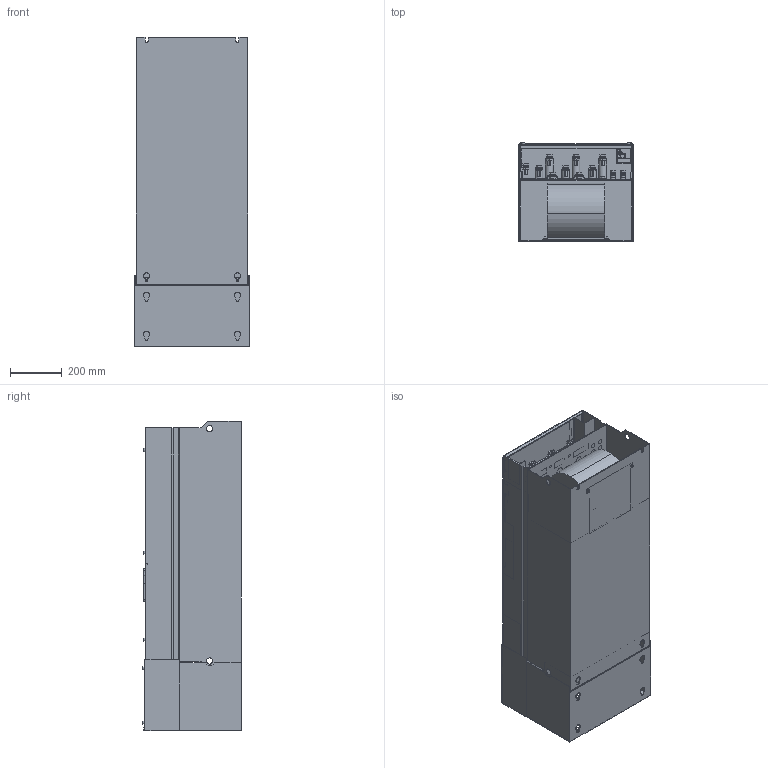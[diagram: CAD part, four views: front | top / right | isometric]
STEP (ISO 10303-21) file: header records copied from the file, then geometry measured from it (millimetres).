
FILE_DESCRIPTION((''),'2;1');
FILE_NAME('VFAS3_SA7_ASM','2016-08-30T',('SESA237464'),('Schneider-Electric'),'PRO/ENGINEER BY PARAMETRIC TECHNOLOGY CORPORATION, 2012420','PRO/ENGINEER BY PARAMETRIC TECHNOLOGY CORPORATION, 2012420','');
FILE_SCHEMA(('CONFIG_CONTROL_DESIGN'));
Products named in the file (23): PRT0001_1_1_1; PRT0004_1_1_1; PRT0101_1_1; PRT0005_1_1_1; PRT0102_1_1; PRT0103_1_1; PRT0007_1_1_1; PRT0008_1_1_1; PRT0104_1_1; PRT0105_1_1; PRT0009_1_1_1; PRT0106_1_1; PRT0010_1_1_1; PRT0012_1_1_1; PRT0013_1_1_1; PRT0109_1_1; PRT0110_1_1; PRT0002_1_1_1; PRT0003_1_1_1; PRT0006_1_1_1; PRT0202_1_1; PRT0300_1_1; VFAS3_SA7_ASM
Assembly tree (51 placements, depth 2):
  VFAS3_SA7_ASM
    PRT0001_1_1_1  x2
    PRT0004_1_1_1  x2
    PRT0101_1_1  x5
    PRT0005_1_1_1  x4
    PRT0102_1_1  x8
    PRT0103_1_1
    PRT0007_1_1_1  x2
    PRT0008_1_1_1  x2
    PRT0104_1_1
    PRT0105_1_1
    PRT0009_1_1_1
    PRT0106_1_1
    PRT0010_1_1_1
    PRT0012_1_1_1
    PRT0013_1_1_1
    PRT0109_1_1
    PRT0110_1_1
    PRT0002_1_1_1  x2
    PRT0003_1_1_1  x6
    PRT0006_1_1_1  x6
    PRT0202_1_1
    PRT0300_1_1
Bounding box: 440 x 379.5 x 1190 mm (x, y, z)
Volume: 107864077.7 mm3; surface area: 5622370.6 mm2
Topology: 50 solids, 50 shells, 5383 faces, 15560 edges, 10291 vertices
Faces by surface type: plane 4764, cylinder 552, cone 46, torus 16, bspline 4, extrusion 1
Entity records: 165274 total; most frequent: CARTESIAN_POINT 30116, ORIENTED_EDGE 28662, DIRECTION 25080, EDGE_CURVE 14331, VECTOR 13202, LINE 13201, VERTEX_POINT 9508, EDGE_LOOP 6841
